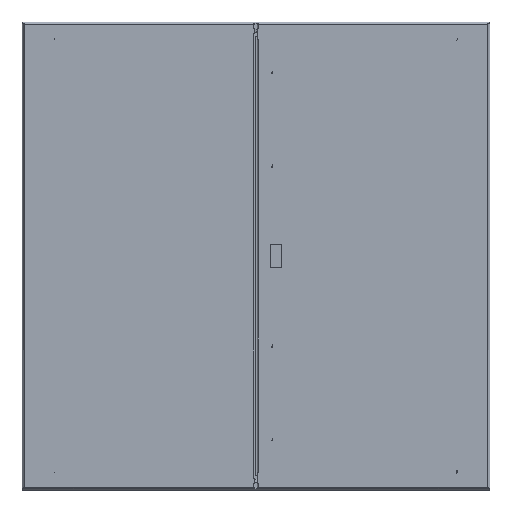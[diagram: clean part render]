
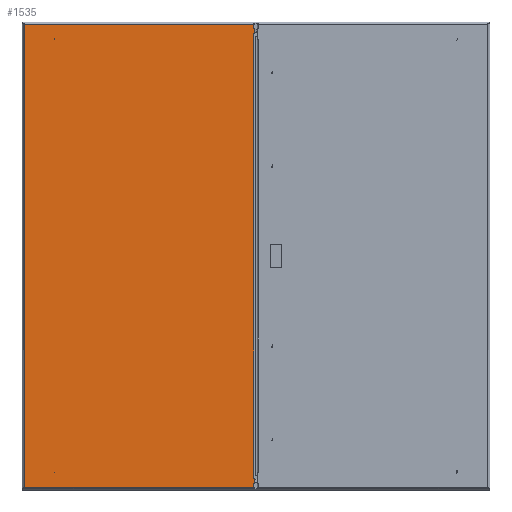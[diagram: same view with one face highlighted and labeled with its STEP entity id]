
A CAD part, top view. The second image highlights one B-rep face of the part: STEP entity #1535.
In plain terms, the highlighted planar face has unit normal (0, 0, 1).
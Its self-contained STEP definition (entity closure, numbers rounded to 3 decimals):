
#32 = ORIENTED_EDGE ( 'NONE', *, *, #25593, .F. ) ;
#47 = CARTESIAN_POINT ( 'NONE',  ( 245.15, 475.25, 1.35 ) ) ;
#629 = CARTESIAN_POINT ( 'NONE',  ( 245.15, -495.15, 1.35 ) ) ;
#637 = CARTESIAN_POINT ( 'NONE',  ( 247.5, 475.25, 1.35 ) ) ;
#1172 = LINE ( 'NONE', #6151, #22176 ) ;
#1287 = VECTOR ( 'NONE', #2637, 1000. ) ;
#1348 = VECTOR ( 'NONE', #18686, 1000. ) ;
#1535 = ADVANCED_FACE ( 'OUT_FRONT_CB', ( #14487 ), #12214, .F. ) ;
#1631 = LINE ( 'NONE', #10839, #18778 ) ;
#2141 = VECTOR ( 'NONE', #5044, 1000. ) ;
#2196 = VERTEX_POINT ( 'NONE', #18465 ) ;
#2637 = DIRECTION ( 'NONE',  ( 1., 0., 0. ) ) ;
#2735 = DIRECTION ( 'NONE',  ( 0., 1., 0. ) ) ;
#3117 = ORIENTED_EDGE ( 'NONE', *, *, #14254, .T. ) ;
#4552 = ORIENTED_EDGE ( 'NONE', *, *, #22784, .T. ) ;
#4840 = DIRECTION ( 'NONE',  ( -1., 0., 0. ) ) ;
#5044 = DIRECTION ( 'NONE',  ( 0., 1., 0. ) ) ;
#6000 = VERTEX_POINT ( 'NONE', #6982 ) ;
#6151 = CARTESIAN_POINT ( 'NONE',  ( -246.115, -495.15, 1.35 ) ) ;
#6163 = VECTOR ( 'NONE', #14076, 1000. ) ;
#6974 = CARTESIAN_POINT ( 'NONE',  ( 245.15, 486.5, 1.35 ) ) ;
#6982 = CARTESIAN_POINT ( 'NONE',  ( 245.15, -475.25, 1.35 ) ) ;
#7041 = CARTESIAN_POINT ( 'NONE',  ( 245.15, -486.5, 1.35 ) ) ;
#7187 = LINE ( 'NONE', #16391, #14950 ) ;
#7208 = EDGE_CURVE ( 'NONE', #12823, #15787, #24440, .T. ) ;
#7607 = ORIENTED_EDGE ( 'NONE', *, *, #9775, .F. ) ;
#8005 = VECTOR ( 'NONE', #11933, 1000. ) ;
#8018 = DIRECTION ( 'NONE',  ( 0., 1., 0. ) ) ;
#8269 = DIRECTION ( 'NONE',  ( 1., 0., 0. ) ) ;
#9440 = ORIENTED_EDGE ( 'NONE', *, *, #29598, .T. ) ;
#9692 = AXIS2_PLACEMENT_3D ( 'NONE', #21420, #25508, #4840 ) ;
#9775 = EDGE_CURVE ( 'NONE', #6000, #26449, #16673, .T. ) ;
#10166 = LINE ( 'NONE', #25704, #2141 ) ;
#10252 = CARTESIAN_POINT ( 'NONE',  ( 245.15, -495.15, 1.35 ) ) ;
#10496 = VECTOR ( 'NONE', #16804, 1000. ) ;
#10839 = CARTESIAN_POINT ( 'NONE',  ( 247.5, -486.5, 1.35 ) ) ;
#11716 = EDGE_CURVE ( 'NONE', #20919, #19818, #12107, .T. ) ;
#11933 = DIRECTION ( 'NONE',  ( 1., 0., 0. ) ) ;
#12107 = LINE ( 'NONE', #637, #6163 ) ;
#12122 = VECTOR ( 'NONE', #8018, 1000. ) ;
#12214 = PLANE ( 'NONE',  #9692 ) ;
#12823 = VERTEX_POINT ( 'NONE', #6974 ) ;
#12998 = CARTESIAN_POINT ( 'NONE',  ( 245.15, 486.5, 1.35 ) ) ;
#13535 = ORIENTED_EDGE ( 'NONE', *, *, #11716, .F. ) ;
#13541 = EDGE_CURVE ( 'NONE', #21193, #19312, #1631, .T. ) ;
#14076 = DIRECTION ( 'NONE',  ( -1., 0., 0. ) ) ;
#14201 = VERTEX_POINT ( 'NONE', #18649 ) ;
#14254 = EDGE_CURVE ( 'NONE', #6000, #19818, #7187, .T. ) ;
#14487 = FACE_OUTER_BOUND ( 'NONE', #14698, .T. ) ;
#14505 = VERTEX_POINT ( 'NONE', #10252 ) ;
#14698 = EDGE_LOOP ( 'NONE', ( #17987, #21934, #20176, #7607, #3117, #13535, #21292, #32, #23443, #9440, #4552, #28475 ) ) ;
#14925 = VECTOR ( 'NONE', #2735, 1000. ) ;
#14950 = VECTOR ( 'NONE', #25583, 1000. ) ;
#15703 = EDGE_CURVE ( 'NONE', #21193, #26449, #19356, .T. ) ;
#15787 = VERTEX_POINT ( 'NONE', #21767 ) ;
#16391 = CARTESIAN_POINT ( 'NONE',  ( 245.15, -475.25, 1.35 ) ) ;
#16606 = CARTESIAN_POINT ( 'NONE',  ( 247.5, 486.5, 1.35 ) ) ;
#16673 = LINE ( 'NONE', #23751, #1287 ) ;
#16804 = DIRECTION ( 'NONE',  ( 0., 1., 0. ) ) ;
#17263 = CARTESIAN_POINT ( 'NONE',  ( 247.5, -486.5, 1.35 ) ) ;
#17385 = EDGE_CURVE ( 'NONE', #14505, #19312, #23406, .T. ) ;
#17608 = CARTESIAN_POINT ( 'NONE',  ( 247.5, -475.25, 1.35 ) ) ;
#17904 = EDGE_CURVE ( 'NONE', #20383, #14505, #1172, .T. ) ;
#17987 = ORIENTED_EDGE ( 'NONE', *, *, #17385, .T. ) ;
#18289 = LINE ( 'NONE', #27465, #24849 ) ;
#18465 = CARTESIAN_POINT ( 'NONE',  ( 247.5, 486.5, 1.35 ) ) ;
#18527 = CARTESIAN_POINT ( 'NONE',  ( 247.5, 495.15, 1.35 ) ) ;
#18649 = CARTESIAN_POINT ( 'NONE',  ( -245.15, 495.15, 1.35 ) ) ;
#18686 = DIRECTION ( 'NONE',  ( -1., 0., 0. ) ) ;
#18778 = VECTOR ( 'NONE', #20058, 1000. ) ;
#18972 = LINE ( 'NONE', #18527, #1348 ) ;
#19312 = VERTEX_POINT ( 'NONE', #7041 ) ;
#19356 = LINE ( 'NONE', #27964, #10496 ) ;
#19818 = VERTEX_POINT ( 'NONE', #47 ) ;
#20058 = DIRECTION ( 'NONE',  ( -1., 0., 0. ) ) ;
#20176 = ORIENTED_EDGE ( 'NONE', *, *, #15703, .T. ) ;
#20383 = VERTEX_POINT ( 'NONE', #22447 ) ;
#20919 = VERTEX_POINT ( 'NONE', #27382 ) ;
#21044 = EDGE_CURVE ( 'NONE', #20919, #2196, #10166, .T. ) ;
#21193 = VERTEX_POINT ( 'NONE', #17263 ) ;
#21292 = ORIENTED_EDGE ( 'NONE', *, *, #21044, .T. ) ;
#21420 = CARTESIAN_POINT ( 'NONE',  ( 247.5, 497.5, 1.35 ) ) ;
#21767 = CARTESIAN_POINT ( 'NONE',  ( 245.15, 495.15, 1.35 ) ) ;
#21934 = ORIENTED_EDGE ( 'NONE', *, *, #13541, .F. ) ;
#22176 = VECTOR ( 'NONE', #8269, 1000. ) ;
#22447 = CARTESIAN_POINT ( 'NONE',  ( -245.15, -495.15, 1.35 ) ) ;
#22784 = EDGE_CURVE ( 'NONE', #14201, #20383, #18289, .T. ) ;
#23406 = LINE ( 'NONE', #629, #14925 ) ;
#23443 = ORIENTED_EDGE ( 'NONE', *, *, #7208, .T. ) ;
#23751 = CARTESIAN_POINT ( 'NONE',  ( 247.5, -475.25, 1.35 ) ) ;
#24440 = LINE ( 'NONE', #12998, #12122 ) ;
#24849 = VECTOR ( 'NONE', #25191, 1000. ) ;
#25191 = DIRECTION ( 'NONE',  ( 0., -1., 0. ) ) ;
#25508 = DIRECTION ( 'NONE',  ( 0., 0., -1. ) ) ;
#25583 = DIRECTION ( 'NONE',  ( 0., 1., 0. ) ) ;
#25593 = EDGE_CURVE ( 'NONE', #12823, #2196, #28068, .T. ) ;
#25704 = CARTESIAN_POINT ( 'NONE',  ( 247.5, -497.5, 1.35 ) ) ;
#26449 = VERTEX_POINT ( 'NONE', #17608 ) ;
#27382 = CARTESIAN_POINT ( 'NONE',  ( 247.5, 475.25, 1.35 ) ) ;
#27465 = CARTESIAN_POINT ( 'NONE',  ( -245.15, 496.115, 1.35 ) ) ;
#27964 = CARTESIAN_POINT ( 'NONE',  ( 247.5, -497.5, 1.35 ) ) ;
#28068 = LINE ( 'NONE', #16606, #8005 ) ;
#28475 = ORIENTED_EDGE ( 'NONE', *, *, #17904, .T. ) ;
#29598 = EDGE_CURVE ( 'NONE', #15787, #14201, #18972, .T. ) ;
